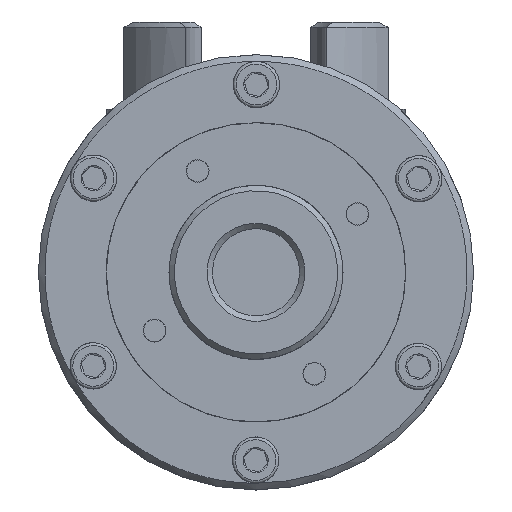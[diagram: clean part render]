
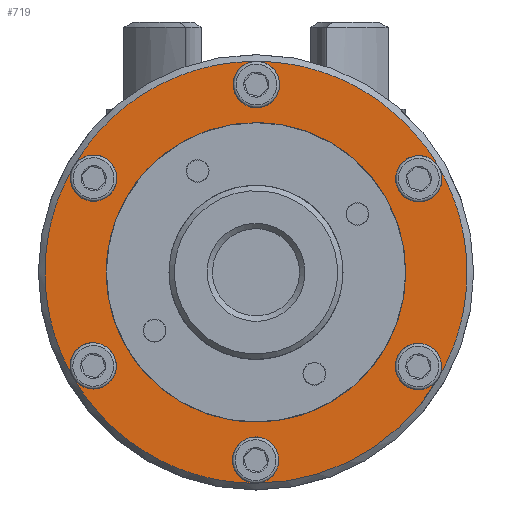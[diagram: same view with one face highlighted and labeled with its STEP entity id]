
A CAD part, left-side view. The second image highlights one B-rep face of the part: STEP entity #719.
In plain terms, the highlighted planar face has unit normal (-1, 0, 0).
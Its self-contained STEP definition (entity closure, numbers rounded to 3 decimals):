
#719 = ADVANCED_FACE( '', ( #1532, #1533 ), #1534, .F. );
#1532 = FACE_OUTER_BOUND( '', #2714, .T. );
#1533 = FACE_BOUND( '', #2715, .T. );
#1534 = PLANE( '', #2716 );
#2714 = EDGE_LOOP( '', ( #4451, #4452, #4453, #4454, #4455, #4456, #4457, #4458, #4459, #4460, #4461, #4462 ) );
#2715 = EDGE_LOOP( '', ( #4463 ) );
#2716 = AXIS2_PLACEMENT_3D( '', #4464, #4465, #4466 );
#4451 = ORIENTED_EDGE( '', *, *, #6749, .T. );
#4452 = ORIENTED_EDGE( '', *, *, #6742, .T. );
#4453 = ORIENTED_EDGE( '', *, *, #6750, .T. );
#4454 = ORIENTED_EDGE( '', *, *, #6741, .T. );
#4455 = ORIENTED_EDGE( '', *, *, #6747, .T. );
#4456 = ORIENTED_EDGE( '', *, *, #6746, .T. );
#4457 = ORIENTED_EDGE( '', *, *, #6751, .T. );
#4458 = ORIENTED_EDGE( '', *, *, #6745, .T. );
#4459 = ORIENTED_EDGE( '', *, *, #6752, .T. );
#4460 = ORIENTED_EDGE( '', *, *, #6744, .T. );
#4461 = ORIENTED_EDGE( '', *, *, #6753, .T. );
#4462 = ORIENTED_EDGE( '', *, *, #6743, .T. );
#4463 = ORIENTED_EDGE( '', *, *, #6754, .F. );
#4464 = CARTESIAN_POINT( '', ( -13.499, 40., 0. ) );
#4465 = DIRECTION( '', ( 1., 0., 0. ) );
#4466 = DIRECTION( '', ( 0., 1., 0. ) );
#6741 = EDGE_CURVE( '', #7811, #7812, #7813, .F. );
#6742 = EDGE_CURVE( '', #7814, #7811, #7815, .F. );
#6743 = EDGE_CURVE( '', #7816, #7814, #7817, .F. );
#6744 = EDGE_CURVE( '', #7818, #7816, #7819, .F. );
#6745 = EDGE_CURVE( '', #7820, #7818, #7821, .F. );
#6746 = EDGE_CURVE( '', #7812, #7820, #7822, .F. );
#6747 = EDGE_CURVE( '', #7812, #7812, #7823, .T. );
#6749 = EDGE_CURVE( '', #7814, #7814, #7826, .T. );
#6750 = EDGE_CURVE( '', #7811, #7811, #7827, .T. );
#6751 = EDGE_CURVE( '', #7820, #7820, #7828, .T. );
#6752 = EDGE_CURVE( '', #7818, #7818, #7829, .T. );
#6753 = EDGE_CURVE( '', #7816, #7816, #7830, .T. );
#6754 = EDGE_CURVE( '', #7831, #7831, #7832, .F. );
#7811 = VERTEX_POINT( '', #9681 );
#7812 = VERTEX_POINT( '', #9682 );
#7813 = CIRCLE( '', #9683, 38.75 );
#7814 = VERTEX_POINT( '', #9684 );
#7815 = CIRCLE( '', #9685, 38.75 );
#7816 = VERTEX_POINT( '', #9686 );
#7817 = CIRCLE( '', #9687, 38.75 );
#7818 = VERTEX_POINT( '', #9688 );
#7819 = CIRCLE( '', #9689, 38.75 );
#7820 = VERTEX_POINT( '', #9690 );
#7821 = CIRCLE( '', #9691, 38.75 );
#7822 = CIRCLE( '', #9692, 38.75 );
#7823 = CIRCLE( '', #9693, 4.25 );
#7826 = CIRCLE( '', #9696, 4.25 );
#7827 = CIRCLE( '', #9697, 4.25 );
#7828 = CIRCLE( '', #9698, 4.25 );
#7829 = CIRCLE( '', #9699, 4.25 );
#7830 = CIRCLE( '', #9700, 4.25 );
#7831 = VERTEX_POINT( '', #9701 );
#7832 = CIRCLE( '', #9702, 27.5 );
#9681 = CARTESIAN_POINT( '', ( -13.499, 33.558, 19.375 ) );
#9682 = CARTESIAN_POINT( '', ( -13.499, 33.558, -19.375 ) );
#9683 = AXIS2_PLACEMENT_3D( '', #11852, #11853, #11854 );
#9684 = CARTESIAN_POINT( '', ( -13.499, 0., 38.75 ) );
#9685 = AXIS2_PLACEMENT_3D( '', #11855, #11856, #11857 );
#9686 = CARTESIAN_POINT( '', ( -13.499, -33.558, 19.375 ) );
#9687 = AXIS2_PLACEMENT_3D( '', #11858, #11859, #11860 );
#9688 = CARTESIAN_POINT( '', ( -13.499, -33.558, -19.375 ) );
#9689 = AXIS2_PLACEMENT_3D( '', #11861, #11862, #11863 );
#9690 = CARTESIAN_POINT( '', ( -13.499, 0., -38.75 ) );
#9691 = AXIS2_PLACEMENT_3D( '', #11864, #11865, #11866 );
#9692 = AXIS2_PLACEMENT_3D( '', #11867, #11868, #11869 );
#9693 = AXIS2_PLACEMENT_3D( '', #11870, #11871, #11872 );
#9696 = AXIS2_PLACEMENT_3D( '', #11876, #11877, #11878 );
#9697 = AXIS2_PLACEMENT_3D( '', #11879, #11880, #11881 );
#9698 = AXIS2_PLACEMENT_3D( '', #11882, #11883, #11884 );
#9699 = AXIS2_PLACEMENT_3D( '', #11885, #11886, #11887 );
#9700 = AXIS2_PLACEMENT_3D( '', #11888, #11889, #11890 );
#9701 = CARTESIAN_POINT( '', ( -13.499, 0., -27.5 ) );
#9702 = AXIS2_PLACEMENT_3D( '', #11891, #11892, #11893 );
#11852 = CARTESIAN_POINT( '', ( -13.499, 0., 0. ) );
#11853 = DIRECTION( '', ( 1., 0., 0. ) );
#11854 = DIRECTION( '', ( 0., 0., -1. ) );
#11855 = CARTESIAN_POINT( '', ( -13.499, 0., 0. ) );
#11856 = DIRECTION( '', ( 1., 0., 0. ) );
#11857 = DIRECTION( '', ( 0., 0., -1. ) );
#11858 = CARTESIAN_POINT( '', ( -13.499, 0., 0. ) );
#11859 = DIRECTION( '', ( 1., 0., 0. ) );
#11860 = DIRECTION( '', ( 0., 0., -1. ) );
#11861 = CARTESIAN_POINT( '', ( -13.499, 0., 0. ) );
#11862 = DIRECTION( '', ( 1., 0., 0. ) );
#11863 = DIRECTION( '', ( 0., 0., -1. ) );
#11864 = CARTESIAN_POINT( '', ( -13.499, 0., 0. ) );
#11865 = DIRECTION( '', ( 1., 0., 0. ) );
#11866 = DIRECTION( '', ( 0., 0., -1. ) );
#11867 = CARTESIAN_POINT( '', ( -13.499, 0., 0. ) );
#11868 = DIRECTION( '', ( 1., 0., 0. ) );
#11869 = DIRECTION( '', ( 0., 0., -1. ) );
#11870 = CARTESIAN_POINT( '', ( -13.499, 29.878, -17.25 ) );
#11871 = DIRECTION( '', ( 1., 0., 0. ) );
#11872 = DIRECTION( '', ( 0., 0., -1. ) );
#11876 = CARTESIAN_POINT( '', ( -13.499, 0., 34.5 ) );
#11877 = DIRECTION( '', ( 1., 0., 0. ) );
#11878 = DIRECTION( '', ( 0., 0., -1. ) );
#11879 = CARTESIAN_POINT( '', ( -13.499, 29.878, 17.25 ) );
#11880 = DIRECTION( '', ( 1., 0., 0. ) );
#11881 = DIRECTION( '', ( 0., 0., -1. ) );
#11882 = CARTESIAN_POINT( '', ( -13.499, 0., -34.5 ) );
#11883 = DIRECTION( '', ( 1., 0., 0. ) );
#11884 = DIRECTION( '', ( 0., 0., -1. ) );
#11885 = CARTESIAN_POINT( '', ( -13.499, -29.878, -17.25 ) );
#11886 = DIRECTION( '', ( 1., 0., 0. ) );
#11887 = DIRECTION( '', ( 0., 0., -1. ) );
#11888 = CARTESIAN_POINT( '', ( -13.499, -29.878, 17.25 ) );
#11889 = DIRECTION( '', ( 1., 0., 0. ) );
#11890 = DIRECTION( '', ( 0., 0., -1. ) );
#11891 = CARTESIAN_POINT( '', ( -13.499, 0., 0. ) );
#11892 = DIRECTION( '', ( 1., 0., 0. ) );
#11893 = DIRECTION( '', ( 0., 0., -1. ) );
